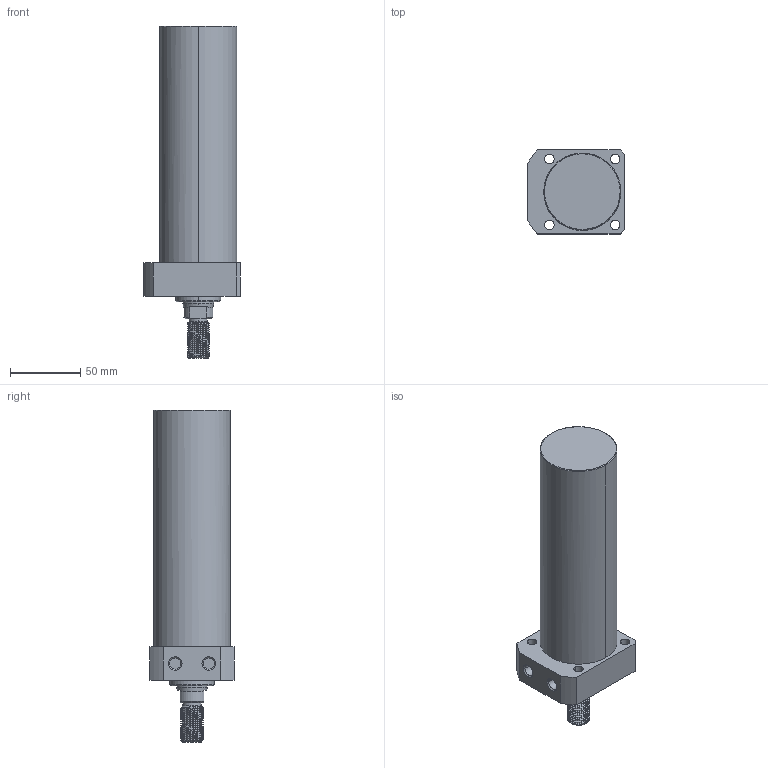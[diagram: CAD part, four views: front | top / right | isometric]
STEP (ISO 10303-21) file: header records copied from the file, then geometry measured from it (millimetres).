
FILE_DESCRIPTION((' '),'2;1');
FILE_NAME( 'TLLR-055CT-140.STEP.stp', '2025-10-24T16:34:50', (' '), ('--- Datakit www.datakit.com---'), ' Datakit CrossCadWare V2024.1 Dec 21 2023', 'Mastercam 2025', ' ');
FILE_SCHEMA(('AUTOMOTIVE_DESIGN { 1 0 10303 214 1 1 1 1 }'));
Length unit declared in the file: millimetre
Products named in the file (1): TLLR-055CT-140
Bounding box: 69 x 60 x 237 mm (x, y, z)
Volume: 506170.3 mm3; surface area: 49077.4 mm2
Topology: 1 solids, 1 shells, 101 faces, 358 edges, 267 vertices
Faces by surface type: cylinder 61, plane 20, cone 16, bspline 2, torus 2
Entity records: 11498 total; most frequent: CARTESIAN_POINT 8408, ORIENTED_EDGE 716, DIRECTION 516, EDGE_CURVE 358, VERTEX_POINT 267, AXIS2_PLACEMENT_3D 209, B_SPLINE_CURVE_WITH_KNOTS 151, EDGE_LOOP 117
